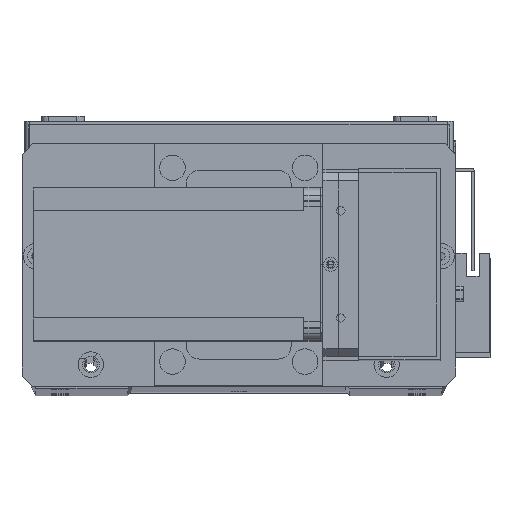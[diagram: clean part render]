
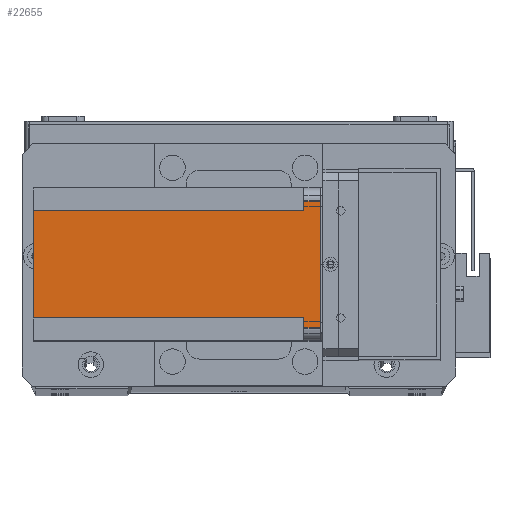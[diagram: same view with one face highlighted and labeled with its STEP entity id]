
A CAD part, top view. The second image highlights one B-rep face of the part: STEP entity #22655.
In plain terms, the highlighted planar face has unit normal (0, 0, 1) as drawn and (-1, 0, 0) by its records, which use the part's own axes.
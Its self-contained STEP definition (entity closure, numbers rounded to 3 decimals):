
#53 = DIRECTION ( 'NONE',  ( 0., 0., 1. ) ) ;
#229 = VERTEX_POINT ( 'NONE', #13976 ) ;
#730 = CARTESIAN_POINT ( 'NONE',  ( 0., 51., -112.5 ) ) ;
#1618 = ORIENTED_EDGE ( 'NONE', *, *, #26933, .F. ) ;
#2071 = ORIENTED_EDGE ( 'NONE', *, *, #26938, .T. ) ;
#2831 = DIRECTION ( 'NONE',  ( -1., 0., 0. ) ) ;
#2919 = VERTEX_POINT ( 'NONE', #14928 ) ;
#3968 = CARTESIAN_POINT ( 'NONE',  ( 0., 55., -6.5 ) ) ;
#4137 = VERTEX_POINT ( 'NONE', #730 ) ;
#4291 = EDGE_LOOP ( 'NONE', ( #22074, #26319, #26708, #29685, #30826, #1618, #2071, #4814 ) ) ;
#4670 = LINE ( 'NONE', #24906, #29870 ) ;
#4814 = ORIENTED_EDGE ( 'NONE', *, *, #26982, .F. ) ;
#5434 = CARTESIAN_POINT ( 'NONE',  ( 0., 0., -112.5 ) ) ;
#5670 = CARTESIAN_POINT ( 'NONE',  ( 0., 9., -112.5 ) ) ;
#6799 = VERTEX_POINT ( 'NONE', #30297 ) ;
#7538 = VECTOR ( 'NONE', #20464, 1000. ) ;
#8081 = DIRECTION ( 'NONE',  ( 0., -1., 0. ) ) ;
#9150 = VECTOR ( 'NONE', #22746, 1000. ) ;
#9306 = VERTEX_POINT ( 'NONE', #26075 ) ;
#9635 = FACE_OUTER_BOUND ( 'NONE', #4291, .T. ) ;
#10362 = CARTESIAN_POINT ( 'NONE',  ( 0., 55., -112.5 ) ) ;
#10692 = VECTOR ( 'NONE', #27276, 1000. ) ;
#10787 = VERTEX_POINT ( 'NONE', #27855 ) ;
#12229 = LINE ( 'NONE', #22424, #24353 ) ;
#12935 = CARTESIAN_POINT ( 'NONE',  ( 0., 51., -112.5 ) ) ;
#13760 = VECTOR ( 'NONE', #29192, 1000. ) ;
#13976 = CARTESIAN_POINT ( 'NONE',  ( 0., 9., -112.5 ) ) ;
#14140 = LINE ( 'NONE', #5670, #7538 ) ;
#14928 = CARTESIAN_POINT ( 'NONE',  ( 0., 5., -6.5 ) ) ;
#15219 = CARTESIAN_POINT ( 'NONE',  ( 0., 60., -6.5 ) ) ;
#15581 = LINE ( 'NONE', #12935, #9150 ) ;
#17130 = LINE ( 'NONE', #15219, #29125 ) ;
#17664 = DIRECTION ( 'NONE',  ( 0., 1., 0. ) ) ;
#17743 = PLANE ( 'NONE',  #31562 ) ;
#18915 = VERTEX_POINT ( 'NONE', #22629 ) ;
#20218 = DIRECTION ( 'NONE',  ( 0., -1., 0. ) ) ;
#20464 = DIRECTION ( 'NONE',  ( 0., 0., -1. ) ) ;
#22074 = ORIENTED_EDGE ( 'NONE', *, *, #26821, .F. ) ;
#22111 = CARTESIAN_POINT ( 'NONE',  ( 0., 0., 0. ) ) ;
#22233 = VERTEX_POINT ( 'NONE', #3968 ) ;
#22424 = CARTESIAN_POINT ( 'NONE',  ( 0., 0., -6.5 ) ) ;
#22614 = CARTESIAN_POINT ( 'NONE',  ( 0., 0., -112.5 ) ) ;
#22629 = CARTESIAN_POINT ( 'NONE',  ( 0., 9., -6.5 ) ) ;
#22655 = ADVANCED_FACE ( 'NONE', ( #9635 ), #17743, .T. ) ;
#22746 = DIRECTION ( 'NONE',  ( 0., 0., 1. ) ) ;
#22893 = VECTOR ( 'NONE', #8081, 1000. ) ;
#23642 = LINE ( 'NONE', #10362, #10692 ) ;
#24353 = VECTOR ( 'NONE', #24795, 1000. ) ;
#24795 = DIRECTION ( 'NONE',  ( 0., 1., 0. ) ) ;
#24906 = CARTESIAN_POINT ( 'NONE',  ( 0., 5., -112.5 ) ) ;
#26075 = CARTESIAN_POINT ( 'NONE',  ( 0., 5., 0. ) ) ;
#26319 = ORIENTED_EDGE ( 'NONE', *, *, #26854, .T. ) ;
#26708 = ORIENTED_EDGE ( 'NONE', *, *, #26733, .F. ) ;
#26733 = EDGE_CURVE ( 'NONE', #10787, #9306, #28054, .T. ) ;
#26821 = EDGE_CURVE ( 'NONE', #2919, #18915, #12229, .T. ) ;
#26854 = EDGE_CURVE ( 'NONE', #2919, #9306, #4670, .T. ) ;
#26858 = EDGE_CURVE ( 'NONE', #10787, #22233, #23642, .T. ) ;
#26863 = EDGE_CURVE ( 'NONE', #6799, #22233, #17130, .T. ) ;
#26933 = EDGE_CURVE ( 'NONE', #4137, #6799, #15581, .T. ) ;
#26938 = EDGE_CURVE ( 'NONE', #4137, #229, #28396, .T. ) ;
#26982 = EDGE_CURVE ( 'NONE', #18915, #229, #14140, .T. ) ;
#27276 = DIRECTION ( 'NONE',  ( 0., 0., -1. ) ) ;
#27855 = CARTESIAN_POINT ( 'NONE',  ( 0., 55., 0. ) ) ;
#28054 = LINE ( 'NONE', #22111, #13760 ) ;
#28396 = LINE ( 'NONE', #5434, #22893 ) ;
#29125 = VECTOR ( 'NONE', #17664, 1000. ) ;
#29192 = DIRECTION ( 'NONE',  ( 0., -1., 0. ) ) ;
#29685 = ORIENTED_EDGE ( 'NONE', *, *, #26858, .T. ) ;
#29870 = VECTOR ( 'NONE', #53, 1000. ) ;
#30297 = CARTESIAN_POINT ( 'NONE',  ( 0., 51., -6.5 ) ) ;
#30826 = ORIENTED_EDGE ( 'NONE', *, *, #26863, .F. ) ;
#31562 = AXIS2_PLACEMENT_3D ( 'NONE', #22614, #2831, #20218 ) ;
